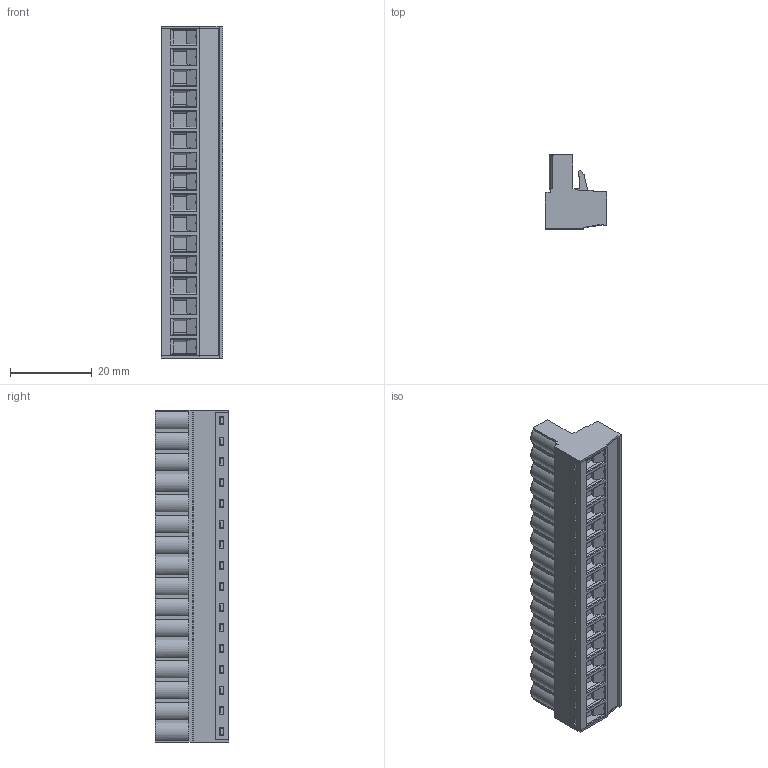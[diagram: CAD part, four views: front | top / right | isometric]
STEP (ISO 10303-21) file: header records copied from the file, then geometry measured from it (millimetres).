
FILE_DESCRIPTION (( 'STEP AP203' ), '1' );
FILE_NAME ('BR8F1-16.STEP', '2020-03-04T02:18:09', ( '' ), ( '' ), 'SwSTEP 2.0', 'SolidWorks 2019', '' );
FILE_SCHEMA (( 'CONFIG_CONTROL_DESIGN' ));
Length unit declared in the file: millimetre
Products named in the file (1): BR8F1-16
Bounding box: 15.05 x 18.1 x 81.28 mm (x, y, z)
Volume: 12904 mm3; surface area: 10618.9 mm2
Topology: 1 solids, 1 shells, 2071 faces, 5505 edges, 3532 vertices
Faces by surface type: plane 1269, cylinder 514, cone 128, torus 96, sphere 64
Entity records: 65327 total; most frequent: CARTESIAN_POINT 13216, ORIENTED_EDGE 11010, DIRECTION 10587, EDGE_CURVE 5505, VECTOR 3987, LINE 3987, VERTEX_POINT 3532, AXIS2_PLACEMENT_3D 3300
